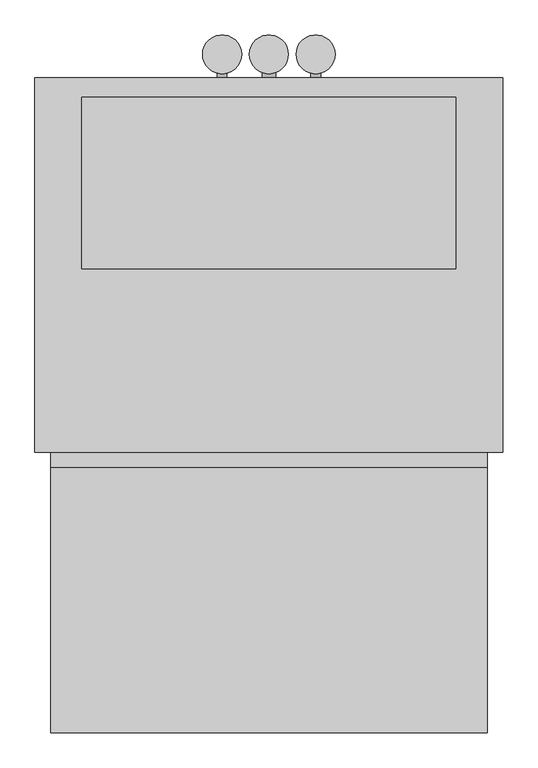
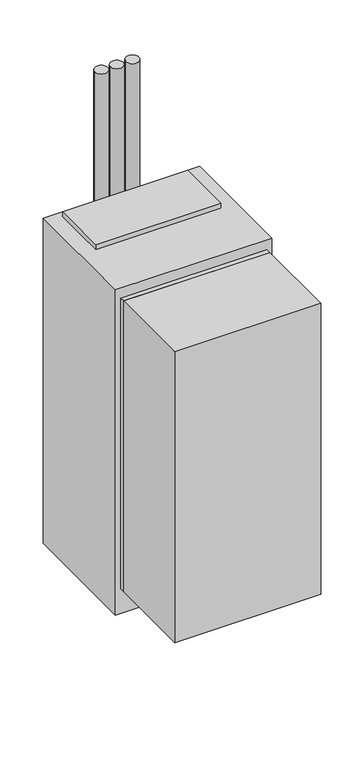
"""IFC4 building model written with IfcOpenShell, lengths in millimetres: proxy geometry, Concealed_Modular_Fan_Coil_Unit_-_42SMA_-_CARRIER_-_2-Pipe_Cool-EHeat_-_WithRisers_2022 : Size 20 - 277v/60Hz/1Ph - 5 Row 12.0kW."""

from ifc_helpers import new_model, si_unit, point, frame, frame_2d, origin, origin_with_axes, place, context, project, spatial, polyline, circle_curve, trimmed, segment, composite_curve, outline, extrude, source, transform, mapped, element, save


def mechanical_equipment_e25ba452(model_context):
    return source(origin(), model_context, "Body", "SweptSolid", [
        extrude(outline(composite_curve([segment(trimmed(circle_curve(frame_2d((457.2, 282.575)), 31.75), [point((425.45, 282.575))], [point((488.95, 282.575))], False, "CARTESIAN"), True, "CONTINUOUS"), segment(trimmed(circle_curve(frame_2d((457.2, 282.575)), 31.75), [point((488.95, 282.575))], [point((425.45, 282.575))], False, "CARTESIAN"), True, "CONTINUOUS")], self_intersect=False)), frame((0.0, 0.0, -330.2), z_axis=(0.0, 0.0, 1.0), x_axis=(1.0, 0.0, 0.0)), (0.0, 0.0, 1.0), 2641.6),
        extrude(outline(composite_curve([segment(trimmed(circle_curve(frame_2d((533.4, 282.575)), 31.75), [point((501.65, 282.575))], [point((565.15, 282.575))], False, "CARTESIAN"), True, "CONTINUOUS"), segment(trimmed(circle_curve(frame_2d((533.4, 282.575)), 31.75), [point((565.15, 282.575))], [point((501.65, 282.575))], False, "CARTESIAN"), True, "CONTINUOUS")], self_intersect=False)), frame((0.0, 0.0, -330.2), z_axis=(0.0, 0.0, 1.0), x_axis=(1.0, 0.0, 0.0)), (0.0, 0.0, 1.0), 2641.6),
        extrude(outline(composite_curve([segment(trimmed(circle_curve(frame_2d((609.6, 282.575)), 31.75), [point((577.85, 282.575))], [point((641.35, 282.575))], False, "CARTESIAN"), True, "CONTINUOUS"), segment(trimmed(circle_curve(frame_2d((609.6, 282.575)), 31.75), [point((641.35, 282.575))], [point((577.85, 282.575))], False, "CARTESIAN"), True, "CONTINUOUS")], self_intersect=False)), frame((0.0, 0.0, -330.2), z_axis=(0.0, 0.0, 1.0), x_axis=(1.0, 0.0, 0.0)), (0.0, 0.0, 1.0), 2641.6),
        extrude(outline(polyline([(889.0, -390.525), (889.0, -822.325), (177.8, -822.325), (177.8, -390.525), (889.0, -390.525)])), frame((0.0, 0.0, 127.0), z_axis=(0.0, 0.0, 1.0), x_axis=(1.0, 0.0, 0.0)), (0.0, 0.0, 1.0), 1498.6),
        extrude(outline(composite_curve([segment(trimmed(circle_curve(frame_2d((990.6, 609.6)), 7.9375), [point((990.6, 601.6625))], [point((990.6, 617.5375))], False, "CARTESIAN"), True, "CONTINUOUS"), segment(trimmed(circle_curve(frame_2d((990.6, 609.6)), 7.9375), [point((990.6, 617.5375))], [point((990.6, 601.6625))], False, "CARTESIAN"), True, "CONTINUOUS")], self_intersect=False)), frame((0.0, 244.475, 0.0), z_axis=(0.0, 1.0, 0.0), x_axis=(0.0, 0.0, 1.0)), (0.0, 0.0, 1.0), 50.8),
        extrude(outline(composite_curve([segment(trimmed(circle_curve(frame_2d((990.6, 457.2)), 7.9375), [point((990.6, 449.2625))], [point((990.6, 465.1375))], False, "CARTESIAN"), True, "CONTINUOUS"), segment(trimmed(circle_curve(frame_2d((990.6, 457.2)), 7.9375), [point((990.6, 465.1375))], [point((990.6, 449.2625))], False, "CARTESIAN"), True, "CONTINUOUS")], self_intersect=False)), frame((0.0, 244.475, 0.0), z_axis=(0.0, 1.0, 0.0), x_axis=(0.0, 0.0, 1.0)), (0.0, 0.0, 1.0), 50.8),
        extrude(outline(composite_curve([segment(trimmed(circle_curve(frame_2d((76.2, 533.4)), 11.1125), [point((76.2, 522.2875))], [point((76.2, 544.5125))], False, "CARTESIAN"), True, "CONTINUOUS"), segment(trimmed(circle_curve(frame_2d((76.2, 533.4)), 11.1125), [point((76.2, 544.5125))], [point((76.2, 522.2875))], False, "CARTESIAN"), True, "CONTINUOUS")], self_intersect=False)), frame((0.0, 244.475, 0.0), z_axis=(0.0, 1.0, 0.0), x_axis=(0.0, 0.0, 1.0)), (0.0, 0.0, 1.0), 50.8),
        extrude(outline(polyline([(838.2, 212.725), (838.2, -66.675), (228.6, -66.675), (228.6, 212.725), (838.2, 212.725)])), frame((0.0, 0.0, 1676.4), z_axis=(0.0, 0.0, 1.0), x_axis=(1.0, 0.0, 0.0)), (0.0, 0.0, 1.0), 25.4),
        extrude(outline(polyline([(889.0, -390.525), (177.8, -390.525), (177.8, -365.125), (889.0, -365.125), (889.0, -390.525)])), frame((0.0, 0.0, 127.0), z_axis=(0.0, 0.0, 1.0), x_axis=(1.0, 0.0, 0.0)), (0.0, 0.0, 1.0), 1498.6),
        extrude(outline(polyline([(914.4, 244.475), (914.4, -365.125), (152.4, -365.125), (152.4, 244.475), (914.4, 244.475)])), origin_with_axes(), (0.0, 0.0, 1.0), 1676.4),
    ])


if __name__ == "__main__":
    model = new_model("IFC4")
    model_context = context("Model", 3, world=origin())
    ifc_project = project(units=[si_unit("LENGTHUNIT", "METRE", prefix="MILLI")], contexts=[model_context])
    site = spatial("IfcSite", under=ifc_project)
    building = spatial("IfcBuilding", under=site)
    placement = place(None, origin())
    mechanical_equipment_shape = mechanical_equipment_e25ba452(model_context)
    element("IfcBuildingElementProxy", 1, Name="Concealed_Modular_Fan_Coil_Unit_-_42SMA_-_CARRIER_-_2-Pipe_Cool-EHeat_-_WithRisers_2022 : Size 20 - 277v/60Hz/1Ph - 5 Row 12.0kW", ObjectType="Concealed_Modular_Fan_Coil_Unit_-_42SMA_-_CARRIER_-_2-Pipe_Cool-EHeat_-_WithRisers_2022 : Size 20 - 277v/60Hz/1Ph - 5 Row 12.0kW", at=placement, inside=building, context=model_context, shape_type="MappedRepresentation", body=[
        mapped(mechanical_equipment_shape, transform((0.0, 0.0, 0.0), x_axis=(1.0, 0.0, 0.0), y_axis=(0.0, 1.0, 0.0), z_axis=(0.0, 0.0, 1.0))),
    ])
    save(model, "model.ifc")
